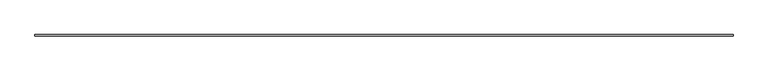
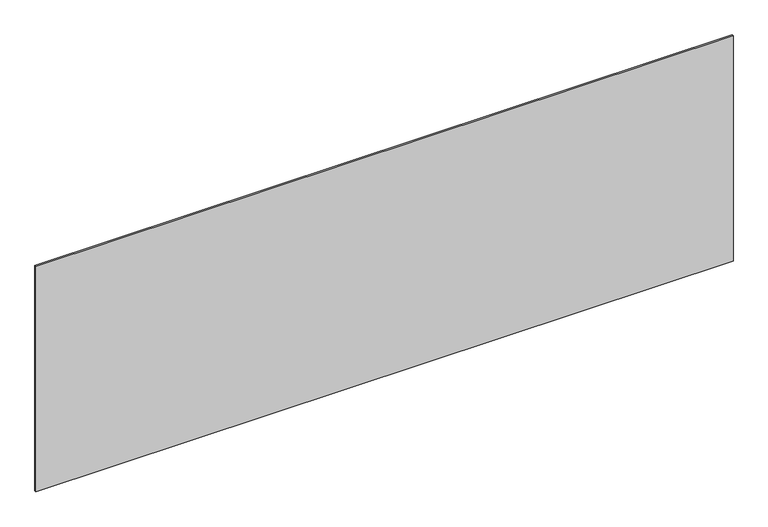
"""IFC4 building model written with IfcOpenShell, lengths in millimetres: plate geometry, システム パネル : 標準."""

from ifc_helpers import new_model, si_unit, origin, origin_with_axes, place, context, project, spatial, polyline, outline, extrude, source, transform, mapped, element, save


def plate_3dea5f32(model_context):
    return source(origin(), model_context, "Body", "SweptSolid", [
        extrude(outline(polyline([(2264.1666667, -5.0), (-2264.1666667, -5.0), (-2264.1666667, 5.0), (2264.1666667, 5.0), (2264.1666667, -5.0)])), origin_with_axes(), (0.0, 0.0, 1.0), 1548.9812503),
    ])


if __name__ == "__main__":
    model = new_model("IFC4")
    model_context = context("Model", 3, world=origin())
    ifc_project = project(units=[si_unit("LENGTHUNIT", "METRE", prefix="MILLI")], contexts=[model_context])
    site = spatial("IfcSite", under=ifc_project)
    building = spatial("IfcBuilding", under=site)
    placement = place(None, origin())
    plate_shape = plate_3dea5f32(model_context)
    element("IfcPlate", 1, ObjectType="システム パネル : 標準", at=placement, inside=building, context=model_context, shape_type="MappedRepresentation", body=[
        mapped(plate_shape, transform((0.0, 0.0, 0.0), x_axis=(1.0, 0.0, 0.0), y_axis=(0.0, 1.0, 0.0), z_axis=(0.0, 0.0, 1.0))),
    ])
    save(model, "model.ifc")
